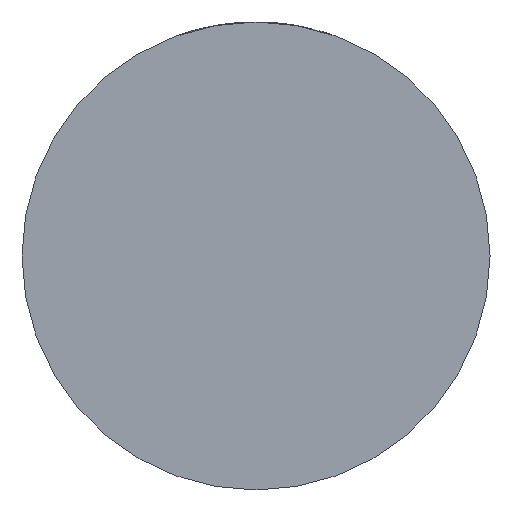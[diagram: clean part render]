
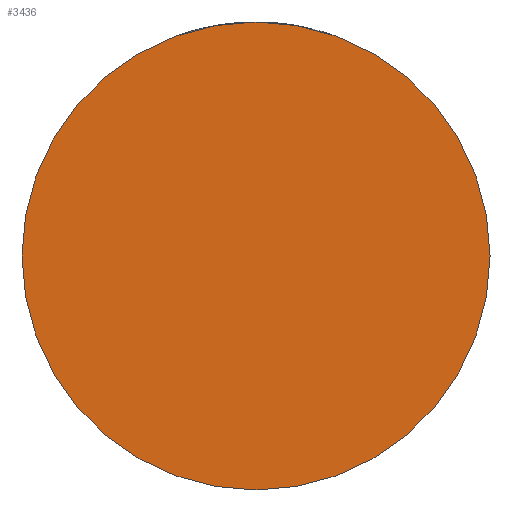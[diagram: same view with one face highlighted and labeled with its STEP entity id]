
A CAD part, front view. The second image highlights one B-rep face of the part: STEP entity #3436.
In plain terms, the highlighted planar face has unit normal (0, -1, 0).
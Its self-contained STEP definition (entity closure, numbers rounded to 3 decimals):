
#65 = CIRCLE ( 'NONE', #2506, 26.5 ) ;
#469 = DIRECTION ( 'NONE',  ( 0., -1., 0. ) ) ;
#599 = DIRECTION ( 'NONE',  ( 1., 0., 0. ) ) ;
#683 = AXIS2_PLACEMENT_3D ( 'NONE', #2461, #3866, #3802 ) ;
#862 = EDGE_CURVE ( 'NONE', #2387, #3469, #65, .T. ) ;
#1533 = ORIENTED_EDGE ( 'NONE', *, *, #3480, .T. ) ;
#1787 = CARTESIAN_POINT ( 'NONE',  ( 0., -22., 0. ) ) ;
#2310 = EDGE_LOOP ( 'NONE', ( #1533, #4020 ) ) ;
#2387 = VERTEX_POINT ( 'NONE', #2504 ) ;
#2461 = CARTESIAN_POINT ( 'NONE',  ( 0., -22., 0. ) ) ;
#2499 = CARTESIAN_POINT ( 'NONE',  ( -26.5, -22., 0. ) ) ;
#2504 = CARTESIAN_POINT ( 'NONE',  ( 26.5, -22., 0. ) ) ;
#2506 = AXIS2_PLACEMENT_3D ( 'NONE', #3585, #2922, #599 ) ;
#2922 = DIRECTION ( 'NONE',  ( 0., -1., 0. ) ) ;
#3436 = ADVANCED_FACE ( 'NONE', ( #3512 ), #4156, .T. ) ;
#3469 = VERTEX_POINT ( 'NONE', #2499 ) ;
#3480 = EDGE_CURVE ( 'NONE', #3469, #2387, #3559, .T. ) ;
#3512 = FACE_OUTER_BOUND ( 'NONE', #2310, .T. ) ;
#3559 = CIRCLE ( 'NONE', #3771, 26.5 ) ;
#3585 = CARTESIAN_POINT ( 'NONE',  ( 0., -22., 0. ) ) ;
#3771 = AXIS2_PLACEMENT_3D ( 'NONE', #1787, #469, #4110 ) ;
#3802 = DIRECTION ( 'NONE',  ( 1., 0., 0. ) ) ;
#3866 = DIRECTION ( 'NONE',  ( 0., -1., 0. ) ) ;
#4020 = ORIENTED_EDGE ( 'NONE', *, *, #862, .T. ) ;
#4110 = DIRECTION ( 'NONE',  ( 1., 0., 0. ) ) ;
#4156 = PLANE ( 'NONE',  #683 ) ;
